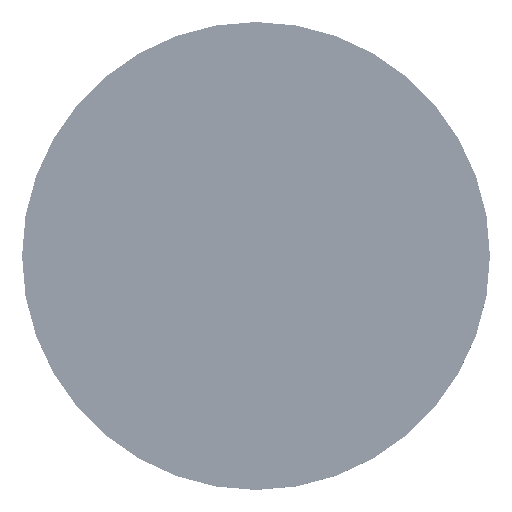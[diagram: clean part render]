
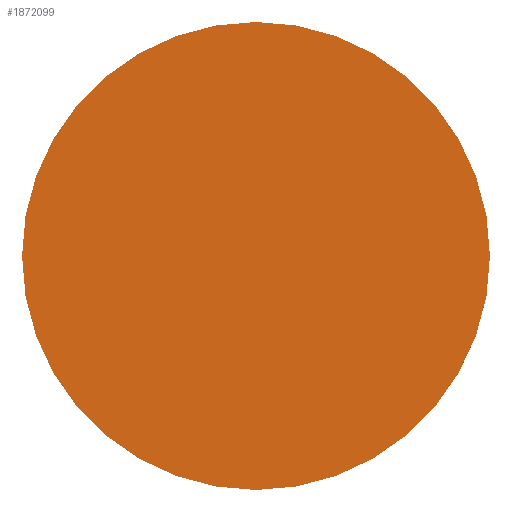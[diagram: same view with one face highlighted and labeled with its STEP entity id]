
A CAD part, top view. The second image highlights one B-rep face of the part: STEP entity #1872099.
In plain terms, the highlighted planar face has unit normal (0, 0, 1).
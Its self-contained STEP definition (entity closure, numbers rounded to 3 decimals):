
#1871981 = VERTEX_POINT('',#1871982);
#1871982 = CARTESIAN_POINT('',(20.,0.,42.981));
#1871991 = CYLINDRICAL_SURFACE('',#1871992,20.);
#1871992 = AXIS2_PLACEMENT_3D('',#1871993,#1871994,#1871995);
#1871993 = CARTESIAN_POINT('',(0.,0.,41.955));
#1871994 = DIRECTION('',(-0.,-0.,-1.));
#1871995 = DIRECTION('',(1.,0.,0.));
#1872010 = EDGE_CURVE('',#1871981,#1871981,#1872011,.T.);
#1872011 = SURFACE_CURVE('',#1872012,(#1872017,#1872024),.PCURVE_S1.);
#1872012 = CIRCLE('',#1872013,20.);
#1872013 = AXIS2_PLACEMENT_3D('',#1872014,#1872015,#1872016);
#1872014 = CARTESIAN_POINT('',(0.,0.,42.981));
#1872015 = DIRECTION('',(0.,0.,1.));
#1872016 = DIRECTION('',(1.,0.,-0.));
#1872017 = PCURVE('',#1871991,#1872018);
#1872018 = DEFINITIONAL_REPRESENTATION('',(#1872019),#1872023);
#1872019 = LINE('',#1872020,#1872021);
#1872020 = CARTESIAN_POINT('',(6.283,-1.026));
#1872021 = VECTOR('',#1872022,1.);
#1872022 = DIRECTION('',(-1.,0.));
#1872023 = ( GEOMETRIC_REPRESENTATION_CONTEXT(2) 
PARAMETRIC_REPRESENTATION_CONTEXT() REPRESENTATION_CONTEXT('2D SPACE',''
  ) );
#1872024 = PCURVE('',#1872025,#1872030);
#1872025 = PLANE('',#1872026);
#1872026 = AXIS2_PLACEMENT_3D('',#1872027,#1872028,#1872029);
#1872027 = CARTESIAN_POINT('',(0.,0.,
    42.981));
#1872028 = DIRECTION('',(0.,0.,1.));
#1872029 = DIRECTION('',(1.,0.,-0.));
#1872030 = DEFINITIONAL_REPRESENTATION('',(#1872031),#1872035);
#1872031 = CIRCLE('',#1872032,20.);
#1872032 = AXIS2_PLACEMENT_2D('',#1872033,#1872034);
#1872033 = CARTESIAN_POINT('',(0.,0.));
#1872034 = DIRECTION('',(1.,0.));
#1872035 = ( GEOMETRIC_REPRESENTATION_CONTEXT(2) 
PARAMETRIC_REPRESENTATION_CONTEXT() REPRESENTATION_CONTEXT('2D SPACE',''
  ) );
#1872099 = ADVANCED_FACE('',(#1872100),#1872025,.T.);
#1872100 = FACE_BOUND('',#1872101,.T.);
#1872101 = EDGE_LOOP('',(#1872102));
#1872102 = ORIENTED_EDGE('',*,*,#1872010,.T.);
